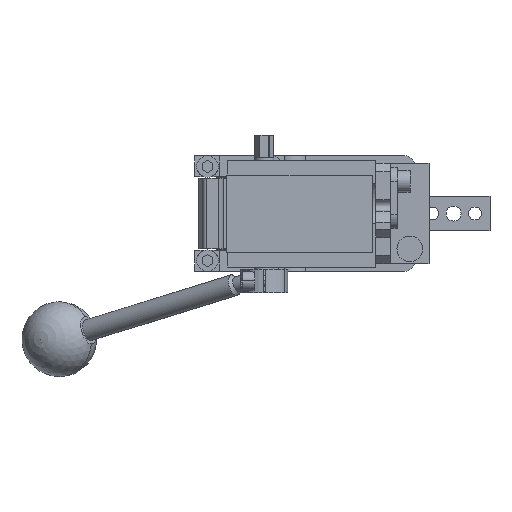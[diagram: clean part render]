
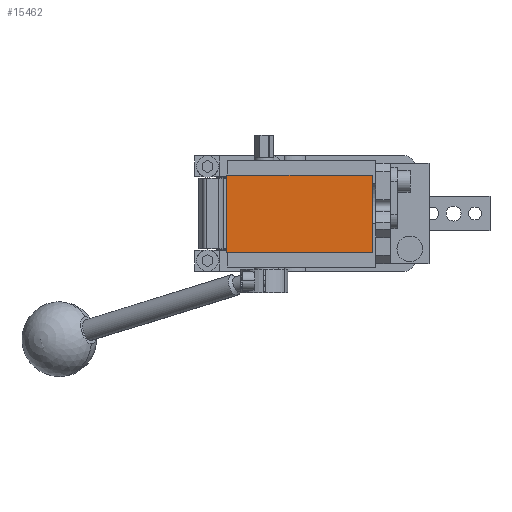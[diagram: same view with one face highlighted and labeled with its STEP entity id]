
A CAD part, front view. The second image highlights one B-rep face of the part: STEP entity #15462.
In plain terms, the highlighted planar face has unit normal (0, -1, 0).
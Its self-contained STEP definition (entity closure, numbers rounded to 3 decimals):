
#1048 = CARTESIAN_POINT ( 'NONE',  ( -6., -233., 18. ) ) ;
#1763 = VECTOR ( 'NONE', #2119, 1000. ) ;
#2085 = VECTOR ( 'NONE', #7946, 1000. ) ;
#2119 = DIRECTION ( 'NONE',  ( 1., 0., 0. ) ) ;
#2757 = CARTESIAN_POINT ( 'NONE',  ( 62., -233., 18. ) ) ;
#2866 = EDGE_CURVE ( 'NONE', #7897, #12862, #5088, .T. ) ;
#4194 = ORIENTED_EDGE ( 'NONE', *, *, #2866, .T. ) ;
#4576 = VECTOR ( 'NONE', #7218, 1000. ) ;
#4678 = CARTESIAN_POINT ( 'NONE',  ( -6., -233., 18. ) ) ;
#5088 = LINE ( 'NONE', #1048, #5286 ) ;
#5286 = VECTOR ( 'NONE', #16680, 1000. ) ;
#5668 = CARTESIAN_POINT ( 'NONE',  ( -6., -233., 18. ) ) ;
#5824 = ORIENTED_EDGE ( 'NONE', *, *, #14755, .T. ) ;
#6108 = LINE ( 'NONE', #4678, #4576 ) ;
#6506 = CARTESIAN_POINT ( 'NONE',  ( 62., -233., 18. ) ) ;
#7218 = DIRECTION ( 'NONE',  ( -1., 0., 0. ) ) ;
#7897 = VERTEX_POINT ( 'NONE', #5668 ) ;
#7946 = DIRECTION ( 'NONE',  ( 0., 0., 1. ) ) ;
#8141 = FACE_OUTER_BOUND ( 'NONE', #10335, .T. ) ;
#8311 = AXIS2_PLACEMENT_3D ( 'NONE', #15819, #9339, #14513 ) ;
#9339 = DIRECTION ( 'NONE',  ( 0., -1., 0. ) ) ;
#10335 = EDGE_LOOP ( 'NONE', ( #4194, #13420, #15188, #5824 ) ) ;
#10468 = VERTEX_POINT ( 'NONE', #2757 ) ;
#11494 = CARTESIAN_POINT ( 'NONE',  ( 62., -233., -18. ) ) ;
#11624 = LINE ( 'NONE', #6506, #2085 ) ;
#11645 = EDGE_CURVE ( 'NONE', #16275, #10468, #11624, .T. ) ;
#12297 = CARTESIAN_POINT ( 'NONE',  ( -6., -233., -18. ) ) ;
#12862 = VERTEX_POINT ( 'NONE', #13224 ) ;
#13224 = CARTESIAN_POINT ( 'NONE',  ( -6., -233., -18. ) ) ;
#13420 = ORIENTED_EDGE ( 'NONE', *, *, #15909, .T. ) ;
#14513 = DIRECTION ( 'NONE',  ( 0., 0., -1. ) ) ;
#14695 = PLANE ( 'NONE',  #8311 ) ;
#14755 = EDGE_CURVE ( 'NONE', #10468, #7897, #6108, .T. ) ;
#15188 = ORIENTED_EDGE ( 'NONE', *, *, #11645, .T. ) ;
#15264 = LINE ( 'NONE', #12297, #1763 ) ;
#15462 = ADVANCED_FACE ( 'NONE', ( #8141 ), #14695, .T. ) ;
#15819 = CARTESIAN_POINT ( 'NONE',  ( 0., -233., 0. ) ) ;
#15909 = EDGE_CURVE ( 'NONE', #12862, #16275, #15264, .T. ) ;
#16275 = VERTEX_POINT ( 'NONE', #11494 ) ;
#16680 = DIRECTION ( 'NONE',  ( 0., 0., -1. ) ) ;
